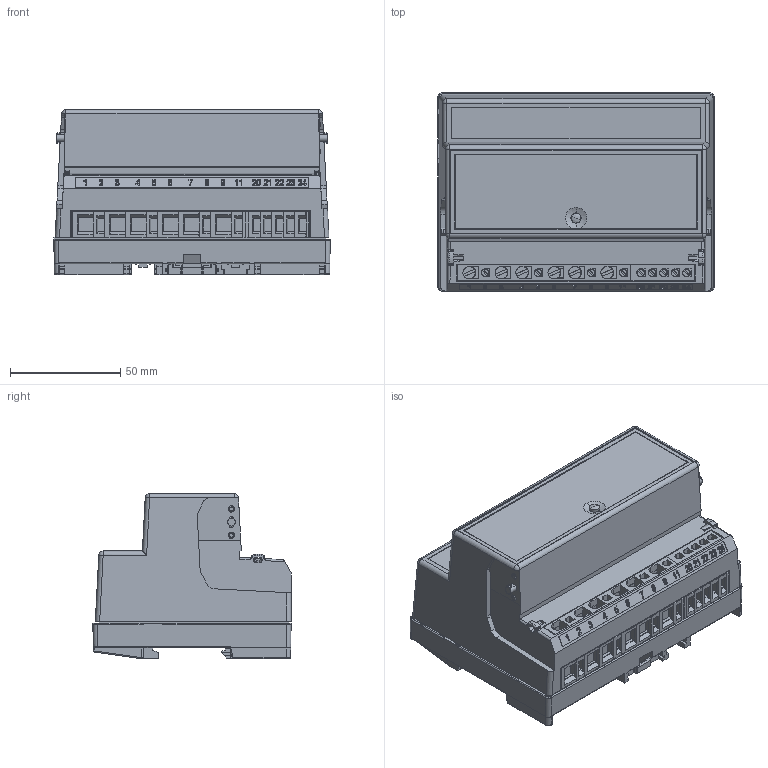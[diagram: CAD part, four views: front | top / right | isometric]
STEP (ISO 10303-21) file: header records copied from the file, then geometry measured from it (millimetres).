
FILE_DESCRIPTION (( 'STEP AP214' ), '1' );
FILE_NAME ('U1389~08-ex.STEP', '2019-01-23T10:56:40', ( '' ), ( '' ), 'SwSTEP 2.0', 'SolidWorks 2018', '' );
FILE_SCHEMA (( 'AUTOMOTIVE_DESIGN' ));
Length unit declared in the file: millimetre
Products named in the file (1): U1389~08-ex
Bounding box: 125.51 x 89.99 x 75.3 mm (x, y, z)
Volume: 152580.1 mm3; surface area: 148408.8 mm2
Topology: 1 solids, 2 shells, 2988 faces, 8345 edges, 5458 vertices
Faces by surface type: plane 2071, bspline 453, cylinder 321, torus 59, sphere 54, cone 30
Entity records: 145250 total; most frequent: CARTESIAN_POINT 40050, ORIENTED_EDGE 16622, DIRECTION 13039, EDGE_CURVE 8311, VECTOR 6381, LINE 6381, VERTEX_POINT 5458, AXIS2_PLACEMENT_3D 3329
